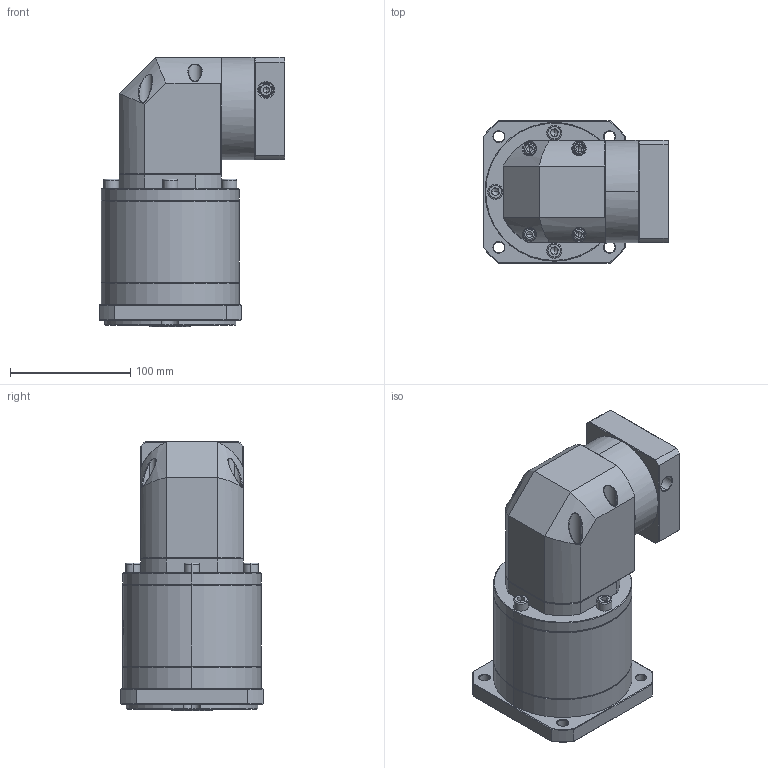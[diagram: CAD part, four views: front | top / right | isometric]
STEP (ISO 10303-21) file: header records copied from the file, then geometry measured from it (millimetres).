
FILE_DESCRIPTION (( 'STEP AP214' ), '1' );
FILE_NAME ('ZFR120A-K25-L3-P2-16-80-100-M6.step', '2023-08-27T09:22:08', ( '' ), ( '' ), 'SwSTEP 2.0', 'SolidWorks 2016', '' );
FILE_SCHEMA (( 'AUTOMOTIVE_DESIGN' ));
Length unit declared in the file: millimetre
Products named in the file (1): ZFR120A-K25-L3-P2-16-80-100-M6
Bounding box: 154.1 x 118 x 223.5 mm (x, y, z)
Volume: 2105404 mm3; surface area: 179537.3 mm2
Topology: 6 solids, 6 shells, 2342 faces, 6130 edges, 3896 vertices
Faces by surface type: plane 1146, bspline 434, cylinder 422, cone 326, torus 14
Entity records: 124572 total; most frequent: CARTESIAN_POINT 46663, ORIENTED_EDGE 12172, DIRECTION 9010, EDGE_CURVE 6086, VERTEX_POINT 3896, VECTOR 3280, LINE 3280, AXIS2_PLACEMENT_3D 2865
